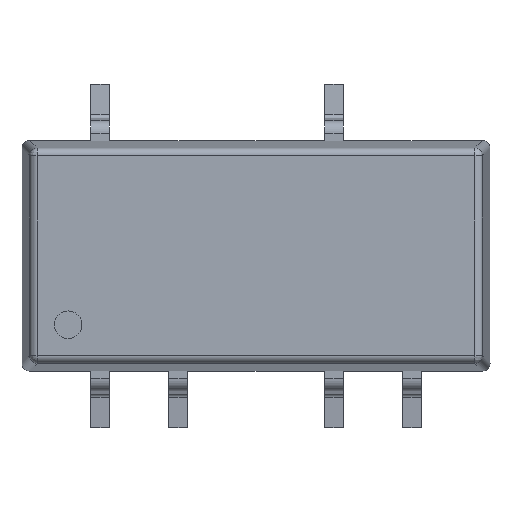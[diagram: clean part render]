
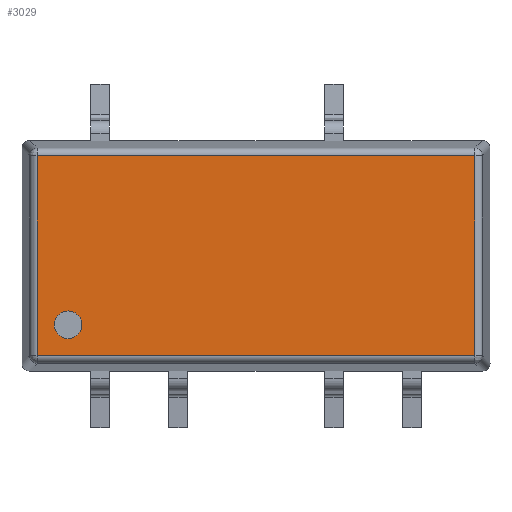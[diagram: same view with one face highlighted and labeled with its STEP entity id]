
A CAD part, top view. The second image highlights one B-rep face of the part: STEP entity #3029.
In plain terms, the highlighted planar face has unit normal (0, 0, 1).
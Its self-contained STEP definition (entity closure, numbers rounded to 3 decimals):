
#172=CARTESIAN_POINT('',(-8.64,-6.415,4.25));
#173=DIRECTION('',(0.,0.,1.));
#174=DIRECTION('',(-1.,0.004,0.));
#175=AXIS2_PLACEMENT_3D('',#172,#173,#174);
#180=CARTESIAN_POINT('',(-8.64,-6.415,4.25));
#181=DIRECTION('',(0.,0.,1.));
#182=DIRECTION('',(1.,-0.003,0.));
#183=AXIS2_PLACEMENT_3D('',#180,#181,#182);
#188=DIRECTION('',(0.,-1.,0.));
#189=VECTOR('',#188,6.51);
#190=CARTESIAN_POINT('',(-9.645,-0.91,4.25));
#191=LINE('',#190,#189);
#1458=DIRECTION('',(1.,0.,0.));
#1459=VECTOR('',#1458,14.25);
#1460=CARTESIAN_POINT('',(-9.645,-7.42,4.25));
#1461=LINE('',#1460,#1459);
#1574=DIRECTION('',(0.,1.,0.));
#1575=VECTOR('',#1574,6.51);
#1576=CARTESIAN_POINT('',(4.605,-7.42,4.25));
#1577=LINE('',#1576,#1575);
#2403=DIRECTION('',(-1.,0.,0.));
#2404=VECTOR('',#2403,14.25);
#2405=CARTESIAN_POINT('',(4.605,-0.91,4.25));
#2406=LINE('',#2405,#2404);
#2571=CARTESIAN_POINT('',(-9.09,-6.413,4.25));
#2572=VERTEX_POINT('',#2571);
#2573=CARTESIAN_POINT('',(-8.19,-6.416,4.25));
#2574=VERTEX_POINT('',#2573);
#2575=CARTESIAN_POINT('',(-9.645,-0.91,4.25));
#2576=CARTESIAN_POINT('',(-9.645,-7.42,4.25));
#2577=VERTEX_POINT('',#2575);
#2578=VERTEX_POINT('',#2576);
#2579=CARTESIAN_POINT('',(4.605,-0.91,4.25));
#2580=VERTEX_POINT('',#2579);
#2581=CARTESIAN_POINT('',(4.605,-7.42,4.25));
#2582=VERTEX_POINT('',#2581);
#3010=CARTESIAN_POINT('',(-2.52,-4.165,4.25));
#3011=DIRECTION('',(0.,0.,1.));
#3012=DIRECTION('',(1.,0.,0.));
#3013=AXIS2_PLACEMENT_3D('',#3010,#3011,#3012);
#3014=PLANE('',#3013);
#3016=ORIENTED_EDGE('',*,*,#3015,.F.);
#3018=ORIENTED_EDGE('',*,*,#3017,.F.);
#3020=ORIENTED_EDGE('',*,*,#3019,.F.);
#3022=ORIENTED_EDGE('',*,*,#3021,.F.);
#3023=EDGE_LOOP('',(#3016,#3018,#3020,#3022));
#3024=FACE_OUTER_BOUND('',#3023,.F.);
#3025=ORIENTED_EDGE('',*,*,#3004,.T.);
#3026=ORIENTED_EDGE('',*,*,#2979,.T.);
#3027=EDGE_LOOP('',(#3025,#3026));
#3028=FACE_BOUND('',#3027,.F.);
#176=CIRCLE('',#175,0.45);
#184=CIRCLE('',#183,0.45);
#2979=EDGE_CURVE('',#2574,#2572,#184,.T.);
#3004=EDGE_CURVE('',#2572,#2574,#176,.T.);
#3015=EDGE_CURVE('',#2577,#2578,#191,.T.);
#3017=EDGE_CURVE('',#2580,#2577,#2406,.T.);
#3019=EDGE_CURVE('',#2582,#2580,#1577,.T.);
#3021=EDGE_CURVE('',#2578,#2582,#1461,.T.);
#3029=ADVANCED_FACE('',(#3024,#3028),#3014,.T.);
